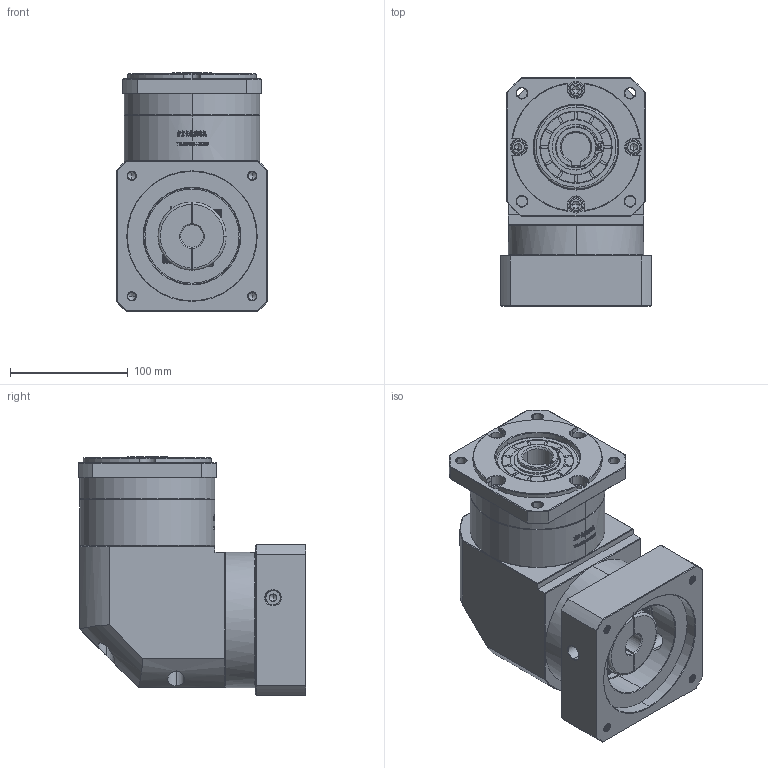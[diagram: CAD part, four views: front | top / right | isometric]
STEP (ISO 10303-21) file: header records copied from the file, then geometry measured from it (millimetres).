
FILE_DESCRIPTION (( 'STEP AP214' ), '1' );
FILE_NAME ('ZFR120A-K25-L1-19-110-145-M8.step', '2023-03-08T08:29:02', ( '' ), ( '' ), 'SwSTEP 2.0', 'SolidWorks 2016', '' );
FILE_SCHEMA (( 'AUTOMOTIVE_DESIGN' ));
Length unit declared in the file: millimetre
Products named in the file (1): ZFR120A-K25-L1-19-110-145-M8
Bounding box: 128 x 193.9 x 203 mm (x, y, z)
Volume: 2935127.3 mm3; surface area: 249459 mm2
Topology: 6 solids, 6 shells, 2814 faces, 7516 edges, 4847 vertices
Faces by surface type: plane 1477, bspline 598, cylinder 401, cone 330, torus 8
Entity records: 152375 total; most frequent: CARTESIAN_POINT 56864, ORIENTED_EDGE 14976, DIRECTION 10905, EDGE_CURVE 7488, VERTEX_POINT 4847, VECTOR 4695, LINE 4695, AXIS2_PLACEMENT_3D 3105
